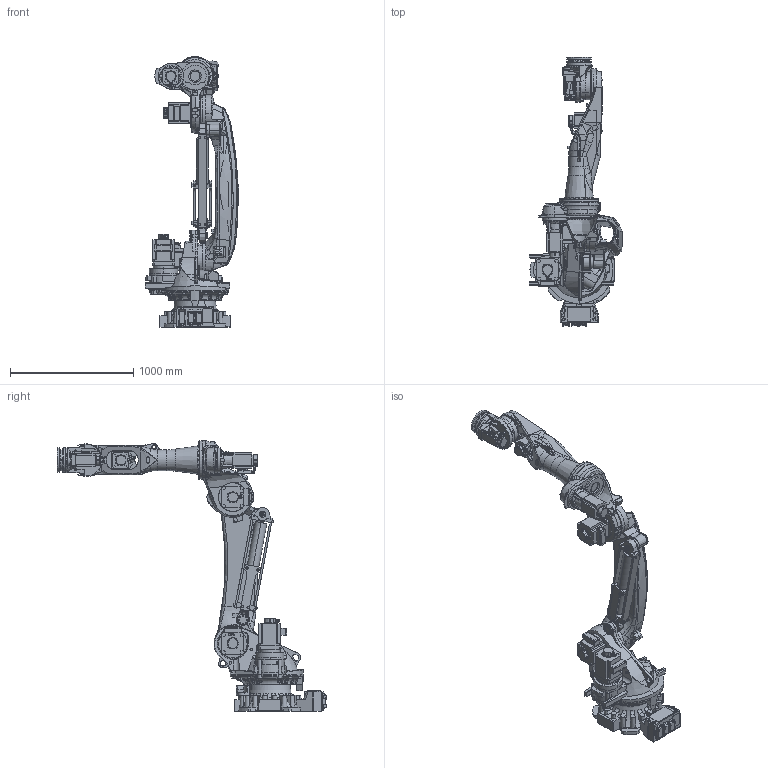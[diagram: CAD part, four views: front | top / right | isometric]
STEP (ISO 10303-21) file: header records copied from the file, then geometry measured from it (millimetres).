
FILE_DESCRIPTION(('CATIA V5 STEP Exchange'),'2;1');
FILE_NAME('F:\☆直近作業\3CX210L-BC01_160223\軽量化\Part\CX210L-BC01\CX110L-BC01\CX110L-BC01 catia-assy.stp','2016-03-04T06:12:04+00:00',('none'),('none'),'CATIA Version 5-6 Release 2013 SP5 HF60','CATIA V5 STEP AP203','none');
FILE_SCHEMA(('CONFIG_CONTROL_DESIGN'));
Products named in the file (1): CX110L-BC01
Assembly tree (13 placements, depth 2):
  CX110L-BC01
    #57
    #17808
    #71555
    #107131
    #138797
    #162249
    #175952
    #177794
    #191082
    #191328
    #204475
    #209920
    #215134
Bounding box: 760 x 2187.72 x 2198.49 mm (x, y, z)
Volume: 176827175.9 mm3; surface area: 11424678 mm2
Topology: 34 solids, 78 shells, 5135 faces, 13350 edges, 8546 vertices
Faces by surface type: plane 2349, cylinder 1202, bspline 764, cone 513, torus 178, sphere 59, extrusion 39, revolution 31
Entity records: 221278 total; most frequent: CARTESIAN_POINT 111099, ORIENTED_EDGE 26383, DIRECTION 15629, EDGE_CURVE 13256, VERTEX_POINT 8542, AXIS2_PLACEMENT_3D 6505, VECTOR 5783, LINE 5744
